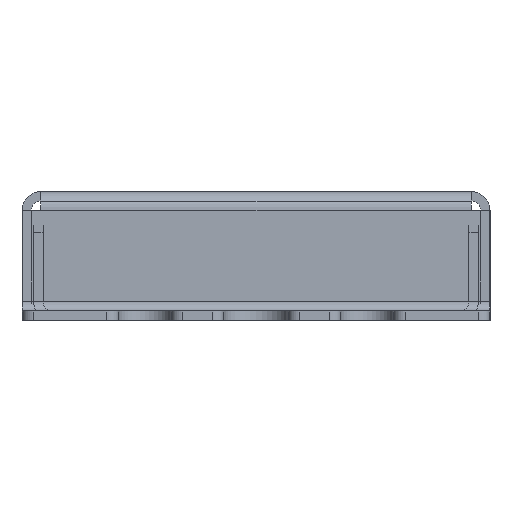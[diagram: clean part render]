
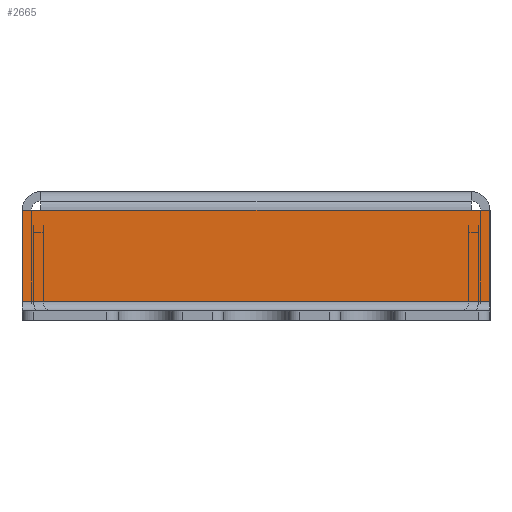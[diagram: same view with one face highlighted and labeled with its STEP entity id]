
A CAD part, left-side view. The second image highlights one B-rep face of the part: STEP entity #2665.
In plain terms, the highlighted planar face has unit normal (-1, 0, 0).
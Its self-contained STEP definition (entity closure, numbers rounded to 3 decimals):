
#48=LINE($,#3980,#296);
#49=LINE($,#3982,#297);
#50=LINE($,#3984,#298);
#51=LINE($,#3986,#299);
#52=LINE($,#3988,#300);
#53=LINE($,#3989,#301);
#296=VECTOR($,#3199,40.);
#297=VECTOR($,#3200,7.8);
#298=VECTOR($,#3201,1.6);
#299=VECTOR($,#3202,36.8);
#300=VECTOR($,#3203,1.6);
#301=VECTOR($,#3204,7.8);
#530=PLANE($,#2848);
#679=FACE_OUTER_BOUND($,#842,.T.);
#842=EDGE_LOOP($,(#1800,#1801,#1802,#1803,#1804,#1805));
#1144=VERTEX_POINT($,#3978);
#1145=VERTEX_POINT($,#3979);
#1146=VERTEX_POINT($,#3981);
#1147=VERTEX_POINT($,#3983);
#1148=VERTEX_POINT($,#3985);
#1149=VERTEX_POINT($,#3987);
#1392=EDGE_CURVE($,#1144,#1145,#48,.T.);
#1393=EDGE_CURVE($,#1146,#1145,#49,.T.);
#1394=EDGE_CURVE($,#1146,#1147,#50,.T.);
#1395=EDGE_CURVE($,#1147,#1148,#51,.T.);
#1396=EDGE_CURVE($,#1148,#1149,#52,.T.);
#1397=EDGE_CURVE($,#1149,#1144,#53,.T.);
#1800=ORIENTED_EDGE($,*,*,#1392,.T.);
#1801=ORIENTED_EDGE($,*,*,#1393,.F.);
#1802=ORIENTED_EDGE($,*,*,#1394,.T.);
#1803=ORIENTED_EDGE($,*,*,#1395,.T.);
#1804=ORIENTED_EDGE($,*,*,#1396,.T.);
#1805=ORIENTED_EDGE($,*,*,#1397,.T.);
#2665=ADVANCED_FACE($,(#679),#530,.T.);
#2848=AXIS2_PLACEMENT_3D($,#3977,#3197,#3198);
#3197=DIRECTION('center_axis',(-1.,0.,0.));
#3198=DIRECTION('ref_axis',(0.,0.,
1.));
#3199=DIRECTION($,(0.,-1.,0.));
#3200=DIRECTION($,(0.,0.,-1.));
#3201=DIRECTION($,(0.,1.,0.));
#3202=DIRECTION($,(0.,1.,0.));
#3203=DIRECTION($,(0.,1.,0.));
#3204=DIRECTION($,(0.,0.,-1.));
#3977=CARTESIAN_POINT('Origin',(-130.,0.,0.105));
#3978=CARTESIAN_POINT('',(-130.,20.,-3.9));
#3979=CARTESIAN_POINT('',(-130.,-20.,-3.9));
#3980=CARTESIAN_POINT($,(-130.,10.,-3.9));
#3981=CARTESIAN_POINT('',(-130.,-20.,3.9));
#3982=CARTESIAN_POINT($,(-130.,-20.,7.519));
#3983=CARTESIAN_POINT('',(-130.,-18.4,3.9));
#3984=CARTESIAN_POINT($,(-130.,0.,3.9));
#3985=CARTESIAN_POINT('',(-130.,18.4,3.9));
#3986=CARTESIAN_POINT($,(-130.,0.,3.9));
#3987=CARTESIAN_POINT('',(-130.,20.,3.9));
#3988=CARTESIAN_POINT($,(-130.,0.,3.9));
#3989=CARTESIAN_POINT($,(-130.,20.,7.519));
